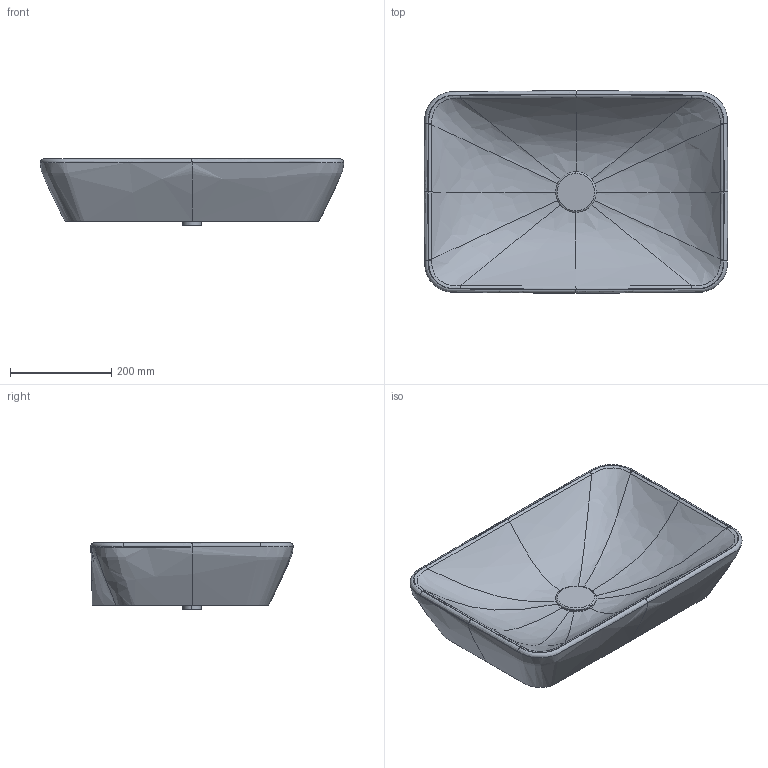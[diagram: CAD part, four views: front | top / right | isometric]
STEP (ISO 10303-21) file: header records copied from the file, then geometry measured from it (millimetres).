
FILE_DESCRIPTION(/* description */ (''),/* implementation_level */ '2;1');
FILE_NAME(/* name */ '239560',/* time_stamp */ '2023-02-03T11:23:02+01:00',/* author */ (''),/* organization */ (''),/* preprocessor_version */ 'ST-DEVELOPER v15',/* originating_system */ '',/* authorisation */ '');
FILE_SCHEMA (('AUTOMOTIVE_DESIGN'));
Length unit declared in the file: millimetre
Products named in the file (1): Document
Bounding box: 600.06 x 400.06 x 130.91 mm (x, y, z)
Volume: 10798520.4 mm3; surface area: 720599.9 mm2
Topology: 3 solids, 3 shells, 211 faces, 474 edges, 272 vertices
Faces by surface type: bspline 176, plane 35
Entity records: 53258 total; most frequent: CARTESIAN_POINT 50300, ORIENTED_EDGE 948, EDGE_CURVE 474, B_SPLINE_CURVE_WITH_KNOTS 361, VERTEX_POINT 272, EDGE_LOOP 218, ADVANCED_FACE 211, FACE_OUTER_BOUND 211
